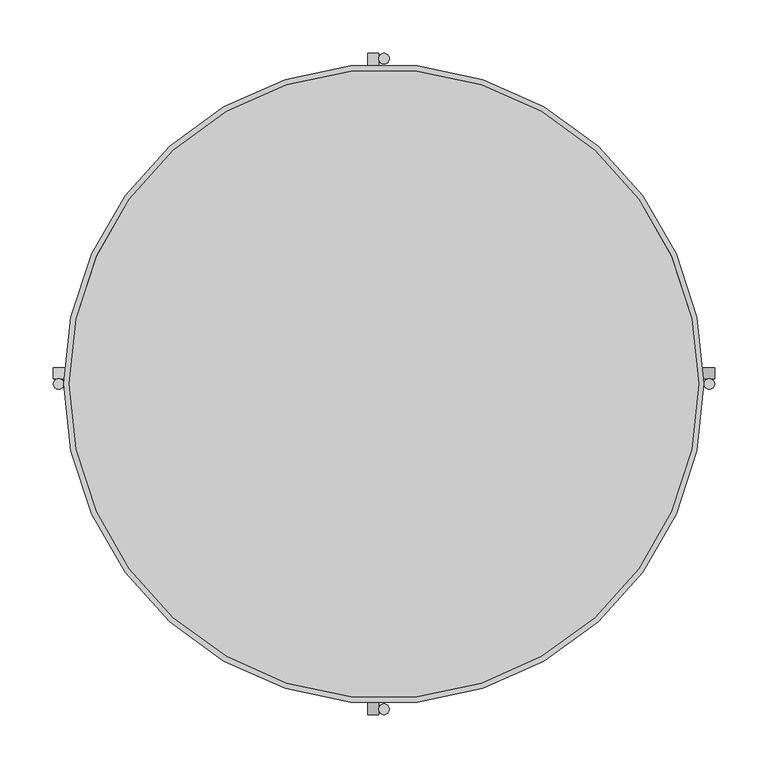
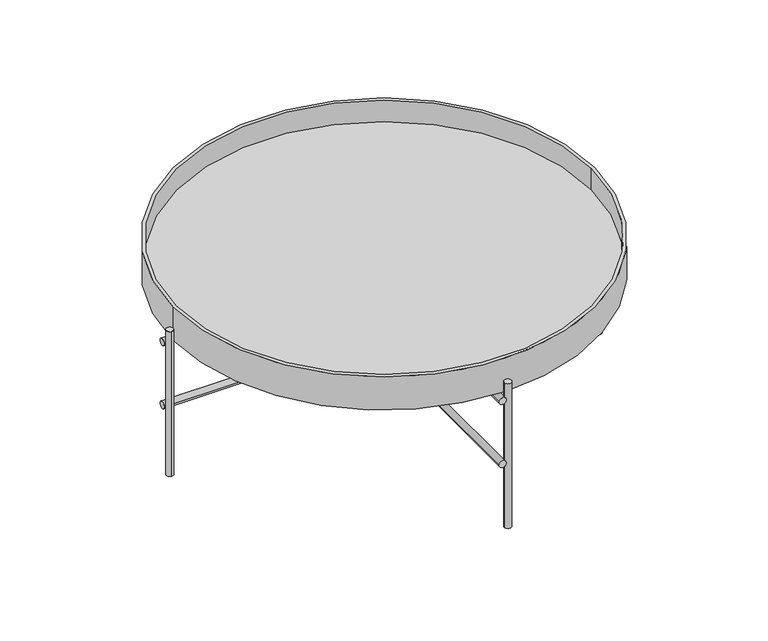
"""IFC4 building model written with IfcOpenShell, lengths in millimetres: furniture geometry, Mobiliário_Mobiliário de Escritório_Mesa de Centro e Apoio Lateral HOS09_Marelli : Mobiliário_Mobiliário de Escritório_Mesa de Centro e Apoio Lateral HOS09_Marelli."""

from ifc_helpers import new_model, si_unit, point, frame, frame_2d, origin, origin_with_axes, place, context, project, spatial, polyline, circle_curve, trimmed, segment, composite_curve, outline, extrude, source, transform, mapped, element, save
from ifc_brep_helpers import plane_surface, cylinder_surface, revolved_surface, advanced_brep


def furniture_b6648ea0(model_context):
    return source(origin(), model_context, "Body", "SolidModel", [
        extrude(outline(composite_curve([segment(trimmed(circle_curve(frame_2d((0.0, 305.0)), 5.0), [point((-5.0, 305.0))], [point((5.0, 305.0))], False, "CARTESIAN"), True, "CONTINUOUS"), segment(trimmed(circle_curve(frame_2d((0.0, 305.0)), 5.0), [point((5.0, 305.0))], [point((-5.0, 305.0))], False, "CARTESIAN"), True, "CONTINUOUS")], self_intersect=False)), origin_with_axes(), (0.0, 0.0, 1.0), 218.0),
        extrude(outline(composite_curve([segment(trimmed(circle_curve(frame_2d((0.0, -305.0)), 5.0), [point((-5.0, -305.0))], [point((5.0, -305.0))], False, "CARTESIAN"), True, "CONTINUOUS"), segment(trimmed(circle_curve(frame_2d((0.0, -305.0)), 5.0), [point((5.0, -305.0))], [point((-5.0, -305.0))], False, "CARTESIAN"), True, "CONTINUOUS")], self_intersect=False)), origin_with_axes(), (0.0, 0.0, 1.0), 218.0),
        extrude(outline(composite_curve([segment(trimmed(circle_curve(frame_2d((305.0, 0.0)), 5.0), [point((305.0, -5.0))], [point((305.0, 5.0))], False, "CARTESIAN"), True, "CONTINUOUS"), segment(trimmed(circle_curve(frame_2d((305.0, 0.0)), 5.0), [point((305.0, 5.0))], [point((305.0, -5.0))], False, "CARTESIAN"), True, "CONTINUOUS")], self_intersect=False)), origin_with_axes(), (0.0, 0.0, 1.0), 218.0),
        extrude(outline(composite_curve([segment(trimmed(circle_curve(frame_2d((-305.0, 0.0)), 5.0), [point((-305.0, -5.0))], [point((-305.0, 5.0))], False, "CARTESIAN"), True, "CONTINUOUS"), segment(trimmed(circle_curve(frame_2d((-305.0, 0.0)), 5.0), [point((-305.0, 5.0))], [point((-305.0, -5.0))], False, "CARTESIAN"), True, "CONTINUOUS")], self_intersect=False)), origin_with_axes(), (0.0, 0.0, 1.0), 218.0),
        advanced_brep(
        [(-300.0, 0.0, 250.0), (300.0, 0.0, 250.0), (295.0, 0.0, 250.0), (-295.0, 0.0, 250.0), (-300.0, 0.0, 200.0), (300.0, 0.0, 200.0), (-295.0, 0.0, 218.0), (295.0, 0.0, 218.0)],
        [
            (0, 1, circle_curve(frame((0.0, 0.0, 250.0), z_axis=(0.0, 0.0, 1.0), x_axis=(1.0, 0.0, 0.0)), 300.0)),
            (1, 0, circle_curve(frame((0.0, 0.0, 250.0), z_axis=(0.0, 0.0, 1.0), x_axis=(1.0, 0.0, 0.0)), 300.0)),
            (2, 3, circle_curve(frame((0.0, 0.0, 250.0), z_axis=(0.0, 0.0, -1.0), x_axis=(1.0, 0.0, 0.0)), 295.0)),
            (3, 2, circle_curve(frame((0.0, 0.0, 250.0), z_axis=(0.0, 0.0, -1.0), x_axis=(1.0, 0.0, 0.0)), 295.0)),
            (4, 5, circle_curve(frame((0.0, 0.0, 200.0), z_axis=(0.0, 0.0, -1.0), x_axis=(1.0, 0.0, 0.0)), 300.0)),
            (5, 4, circle_curve(frame((0.0, 0.0, 200.0), z_axis=(0.0, 0.0, -1.0), x_axis=(1.0, 0.0, 0.0)), 300.0)),
            (0, 4),
            (5, 1),
            (6, 7, circle_curve(frame((0.0, 0.0, 218.0), z_axis=(0.0, 0.0, 1.0), x_axis=(1.0, 0.0, 0.0)), 295.0)),
            (7, 6, circle_curve(frame((0.0, 0.0, 218.0), z_axis=(0.0, 0.0, 1.0), x_axis=(1.0, 0.0, 0.0)), 295.0)),
            (6, 3),
            (2, 7),
        ],
        [
            plane_surface(frame((300.0, 0.0, 250.0), z_axis=(0.0, 0.0, 1.0), x_axis=(0.0, 1.0, 0.0))),
            plane_surface(frame((300.0, 0.0, 200.0), z_axis=(0.0, 0.0, -1.0), x_axis=(0.0, -1.0, 0.0))),
            cylinder_surface(frame((0.0, 0.0, 200.0), z_axis=(0.0, 0.0, 1.0), x_axis=(1.0, 0.0, 0.0)), 300.0),
            plane_surface(frame((295.0, 0.0, 218.0), z_axis=(0.0, 0.0, 1.0), x_axis=(0.0, -1.0, 0.0))),
            revolved_surface(polyline([(295.0, 0.0, 250.0), (295.0, 0.0, 218.0)]), (0.0, 0.0, 218.0), (0.0, 0.0, 1.0)),
        ],
        [
            (0, [[1, 2], [3, 4]]),
            (1, [[5, 6]]),
            (2, [[-1, 7, -6, 8]]),
            (2, [[-2, -8, -5, -7]]),
            (3, [[9, 10]]),
            (4, [[-9, 11, -3, 12]]),
            (4, [[-10, -12, -4, -11]]),
        ],
    ),
        advanced_brep(
        [(-15.0, 310.0, 100.0), (-5.0, 310.0, 100.0), (-5.0, 0.0, 100.0), (-15.0, 0.0, 100.0), (-15.0, -310.0, 100.0), (-5.0, -310.0, 100.0)],
        [
            (0, 1, circle_curve(frame((-10.0, 310.0, 100.0), z_axis=(0.0, 1.0, 0.0), x_axis=(1.0, 0.0, 0.0)), 5.0)),
            (1, 0, circle_curve(frame((-10.0, 310.0, 100.0), z_axis=(0.0, 1.0, 0.0), x_axis=(1.0, 0.0, 0.0)), 5.0)),
            (1, 2),
            (2, 3, circle_curve(frame((-10.0, 0.0, 100.0), z_axis=(0.0, 1.0, 0.0), x_axis=(1.0, 0.0, 0.0)), 5.0)),
            (3, 0),
            (3, 2, circle_curve(frame((-10.0, 0.0, 100.0), z_axis=(0.0, 1.0, 0.0), x_axis=(1.0, 0.0, 0.0)), 5.0)),
            (4, 5, circle_curve(frame((-10.0, -310.0, 100.0), z_axis=(0.0, -1.0, 0.0), x_axis=(1.0, 0.0, 0.0)), 5.0)),
            (5, 4, circle_curve(frame((-10.0, -310.0, 100.0), z_axis=(0.0, -1.0, 0.0), x_axis=(1.0, 0.0, 0.0)), 5.0)),
            (4, 3),
            (2, 5),
        ],
        [
            plane_surface(frame((-5.0, 310.0, 100.0), z_axis=(0.0, 1.0, 0.0), x_axis=(0.0, 0.0, -1.0))),
            cylinder_surface(frame((-10.0, 310.0, 100.0), z_axis=(0.0, -1.0, 0.0), x_axis=(1.0, 0.0, 0.0)), 5.0),
            plane_surface(frame((-5.0, -310.0, 100.0), z_axis=(0.0, -1.0, 0.0), x_axis=(0.0, 0.0, 1.0))),
            cylinder_surface(frame((-10.0, -310.0, 100.0), z_axis=(0.0, 1.0, 0.0), x_axis=(1.0, 0.0, 0.0)), 5.0),
        ],
        [
            (0, [[1, 2]]),
            (1, [[-2, 3, 4, 5]]),
            (1, [[-1, -5, 6, -3]]),
            (2, [[7, 8]]),
            (3, [[-7, 9, -4, 10]]),
            (3, [[-8, -10, -6, -9]]),
        ],
    ),
        advanced_brep(
        [(-310.0, 5.0, 100.0), (-310.0, 15.0, 100.0), (0.0, 15.0, 100.0), (0.0, 5.0, 100.0), (310.0, 5.0, 100.0), (310.0, 15.0, 100.0)],
        [
            (0, 1, circle_curve(frame((-310.0, 10.0, 100.0), z_axis=(-1.0, 0.0, 0.0), x_axis=(0.0, 1.0, 0.0)), 5.0)),
            (1, 0, circle_curve(frame((-310.0, 10.0, 100.0), z_axis=(-1.0, 0.0, 0.0), x_axis=(0.0, 1.0, 0.0)), 5.0)),
            (1, 2),
            (2, 3, circle_curve(frame((0.0, 10.0, 100.0), z_axis=(-1.0, 0.0, 0.0), x_axis=(0.0, 1.0, 0.0)), 5.0)),
            (3, 0),
            (3, 2, circle_curve(frame((0.0, 10.0, 100.0), z_axis=(-1.0, 0.0, 0.0), x_axis=(0.0, 1.0, 0.0)), 5.0)),
            (4, 5, circle_curve(frame((310.0, 10.0, 100.0), z_axis=(1.0, 0.0, 0.0), x_axis=(0.0, 1.0, 0.0)), 5.0)),
            (5, 4, circle_curve(frame((310.0, 10.0, 100.0), z_axis=(1.0, 0.0, 0.0), x_axis=(0.0, 1.0, 0.0)), 5.0)),
            (4, 3),
            (2, 5),
        ],
        [
            plane_surface(frame((-310.0, 15.0, 100.0), z_axis=(-1.0, 0.0, 0.0), x_axis=(0.0, 0.0, -1.0))),
            cylinder_surface(frame((-310.0, 10.0, 100.0), z_axis=(1.0, 0.0, 0.0), x_axis=(0.0, 1.0, 0.0)), 5.0),
            plane_surface(frame((310.0, 15.0, 100.0), z_axis=(1.0, 0.0, 0.0), x_axis=(0.0, 0.0, 1.0))),
            cylinder_surface(frame((310.0, 10.0, 100.0), z_axis=(-1.0, 0.0, 0.0), x_axis=(0.0, 1.0, 0.0)), 5.0),
        ],
        [
            (0, [[1, 2]]),
            (1, [[-2, 3, 4, 5]]),
            (1, [[-1, -5, 6, -3]]),
            (2, [[7, 8]]),
            (3, [[-7, 9, -4, 10]]),
            (3, [[-8, -10, -6, -9]]),
        ],
    ),
        extrude(outline(composite_curve([segment(trimmed(circle_curve(frame_2d((195.0, -10.0)), 5.0), [point((195.0, -15.0))], [point((195.0, -5.0))], False, "CARTESIAN"), True, "CONTINUOUS"), segment(trimmed(circle_curve(frame_2d((195.0, -10.0)), 5.0), [point((195.0, -5.0))], [point((195.0, -15.0))], False, "CARTESIAN"), True, "CONTINUOUS")], self_intersect=False)), frame((0.0, -310.0, 0.0), z_axis=(0.0, 1.0, 0.0), x_axis=(0.0, 0.0, 1.0)), (0.0, 0.0, 1.0), 130.0),
        extrude(outline(composite_curve([segment(trimmed(circle_curve(frame_2d((195.0, -10.0)), 5.0), [point((195.0, -15.0))], [point((195.0, -5.0))], False, "CARTESIAN"), True, "CONTINUOUS"), segment(trimmed(circle_curve(frame_2d((195.0, -10.0)), 5.0), [point((195.0, -5.0))], [point((195.0, -15.0))], False, "CARTESIAN"), True, "CONTINUOUS")], self_intersect=False)), frame((0.0, 180.0, 0.0), z_axis=(0.0, 1.0, 0.0), x_axis=(0.0, 0.0, 1.0)), (0.0, 0.0, 1.0), 130.0),
        extrude(outline(composite_curve([segment(trimmed(circle_curve(frame_2d((10.0, 195.0)), 5.0), [point((5.0, 195.0))], [point((15.0, 195.0))], False, "CARTESIAN"), True, "CONTINUOUS"), segment(trimmed(circle_curve(frame_2d((10.0, 195.0)), 5.0), [point((15.0, 195.0))], [point((5.0, 195.0))], False, "CARTESIAN"), True, "CONTINUOUS")], self_intersect=False)), frame((-310.0, 0.0, 0.0), z_axis=(1.0, 0.0, 0.0), x_axis=(0.0, 1.0, 0.0)), (0.0, 0.0, 1.0), 130.0),
        extrude(outline(composite_curve([segment(trimmed(circle_curve(frame_2d((10.0, 195.0)), 5.0), [point((5.0, 195.0))], [point((15.0, 195.0))], False, "CARTESIAN"), True, "CONTINUOUS"), segment(trimmed(circle_curve(frame_2d((10.0, 195.0)), 5.0), [point((15.0, 195.0))], [point((5.0, 195.0))], False, "CARTESIAN"), True, "CONTINUOUS")], self_intersect=False)), frame((180.0, 0.0, 0.0), z_axis=(1.0, 0.0, 0.0), x_axis=(0.0, 1.0, 0.0)), (0.0, 0.0, 1.0), 130.0),
    ])


if __name__ == "__main__":
    model = new_model("IFC4")
    model_context = context("Model", 3, world=origin())
    ifc_project = project(units=[si_unit("LENGTHUNIT", "METRE", prefix="MILLI")], contexts=[model_context])
    site = spatial("IfcSite", under=ifc_project)
    building = spatial("IfcBuilding", under=site)
    placement = place(None, origin())
    furniture_shape = furniture_b6648ea0(model_context)
    element("IfcFurniture", 1, ObjectType="Mobiliário_Mobiliário de Escritório_Mesa de Centro e Apoio Lateral HOS09_Marelli : Mobiliário_Mobiliário de Escritório_Mesa de Centro e Apoio Lateral HOS09_Marelli", at=placement, inside=building, context=model_context, shape_type="MappedRepresentation", body=[
        mapped(furniture_shape, transform((0.0, 0.0, 0.0), x_axis=(1.0, 0.0, 0.0), y_axis=(0.0, 1.0, 0.0), z_axis=(0.0, 0.0, 1.0))),
    ])
    save(model, "model.ifc")
